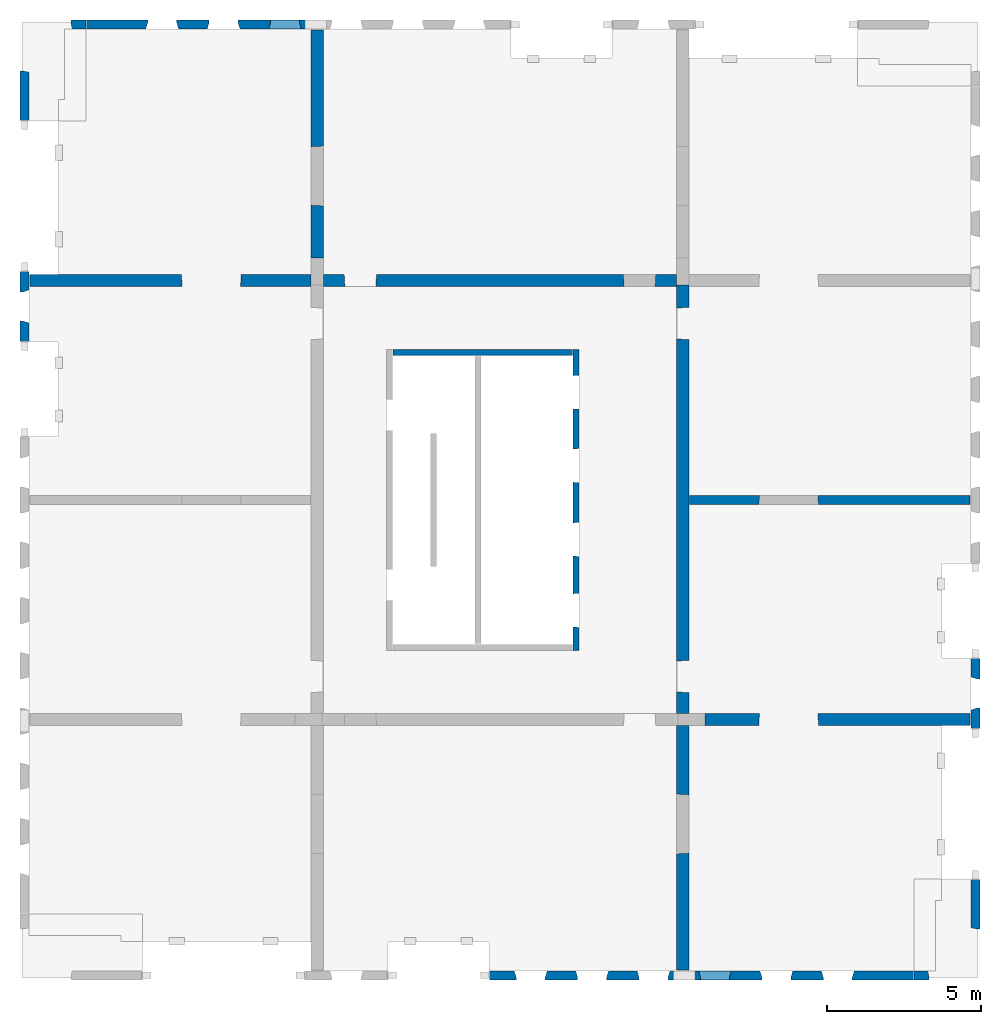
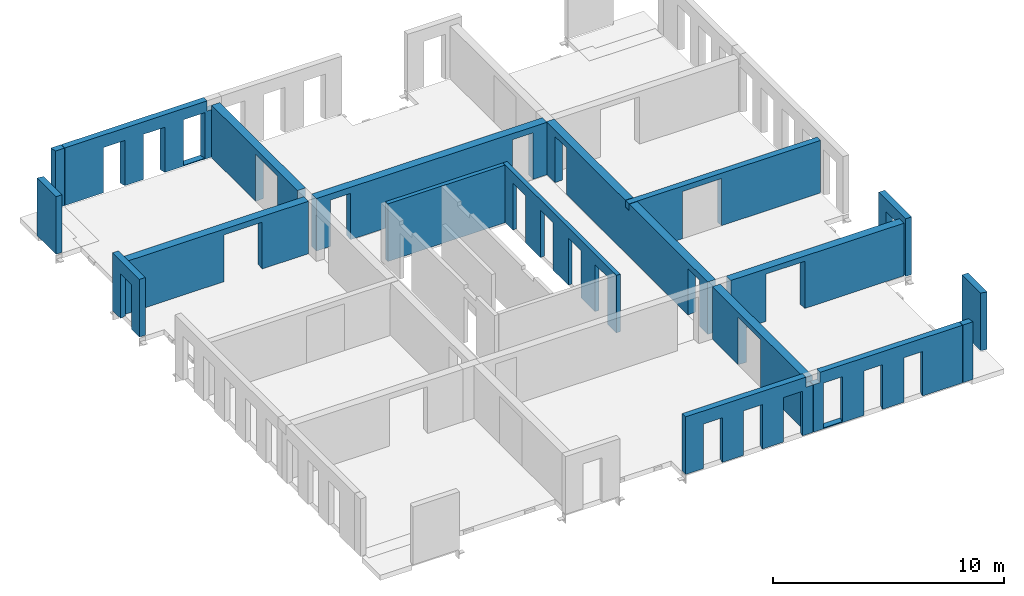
# One storey, part 3 of 4: 18 walls, 33 openings.
"""IFC2X3 building model written with IfcOpenShell, lengths in millimetres."""

import ifcopenshell
import ifcopenshell.guid

model = None  # the IFC model being written
_history = None  # IfcOwnerHistory: only IFC2X3 demands one
_inside = {}  # id of a spatial element -> (the spatial element, [elements in it])
_under = {}  # id of a project, library or spatial element -> (it, [spatial elements below it])
_declared = {}  # id of a project -> (the project, [libraries it declares])
_typed = {}  # id of a type object -> (the type object, [elements of that type])
_made_of = {}  # id of a material, layer set ... -> (it, [elements and type objects made of it])


def new_model(schema):
    """Start an empty IFC model of exactly this schema.

    Asked for "IFC4X3", IfcOpenShell would pick the latest addendum, in which some entities
    have other attributes; the version numbers below select the first issue.
    IFC2X3 requires an IfcOwnerHistory on every rooted entity: one is made here for all.
    """
    global model, _history
    if schema == "IFC4X3":
        model = ifcopenshell.file(schema_version=(4, 3, 0, 0))
    else:
        model = ifcopenshell.file(schema=schema)
    _inside.clear()
    _under.clear()
    _declared.clear()
    _typed.clear()
    _made_of.clear()
    _history = None
    if model.schema == "IFC2X3":
        org = make("IfcOrganization", Name="unknown")
        user = make(
            "IfcPersonAndOrganization",
            ThePerson=make("IfcPerson", FamilyName="unknown"),
            TheOrganization=org,
        )
        app = make(
            "IfcApplication",
            ApplicationDeveloper=org,
            Version="unknown",
            ApplicationFullName="unknown",
            ApplicationIdentifier="unknown",
        )
        _history = make(
            "IfcOwnerHistory",
            OwningUser=user,
            OwningApplication=app,
            ChangeAction="ADDED",
            CreationDate=0,
        )
    return model


def make(cls, **values):
    """One entity of the class cls with the attributes given. An attribute that is None is left unset."""
    return model.create_entity(
        cls, **{name: value for name, value in values.items() if value is not None}
    )


def entity(cls, *values):
    """Any entity or typed value of the class cls, its attributes in the order of the schema. None: left unset."""
    e = model.create_entity(cls)
    for i, value in enumerate(values):
        if value is not None:
            e[i] = value
    return e


def rooted(cls, **values):
    """An entity with a GlobalId (a new one), such as an element, a storey or a relation."""
    return make(cls, GlobalId=ifcopenshell.guid.new(), OwnerHistory=_history, **values)


def si_unit(unit_type, name, prefix=None):
    """IfcSIUnit, for example si_unit("LENGTHUNIT", "METRE", prefix="MILLI")."""
    return make("IfcSIUnit", UnitType=unit_type, Prefix=prefix, Name=name)


def converted_unit(unit_type, name, factor, base, dimensions=None, offset=None):
    """IfcConversionBasedUnit, such as the inch: factor (a typed value) times the base unit."""
    return make(
        "IfcConversionBasedUnit"
        if offset is None
        else "IfcConversionBasedUnitWithOffset",
        ConversionOffset=offset,
        Dimensions=None
        if dimensions is None
        else entity("IfcDimensionalExponents", *dimensions),
        UnitType=unit_type,
        Name=name,
        ConversionFactor=make(
            "IfcMeasureWithUnit", ValueComponent=factor, UnitComponent=base
        ),
    )


def derived_unit(unit_type, elements):
    """IfcDerivedUnit: a product of units, each with its exponent."""
    return make(
        "IfcDerivedUnit",
        Elements=[
            make("IfcDerivedUnitElement", Unit=unit, Exponent=power)
            for unit, power in elements
        ],
        UnitType=unit_type,
    )


def assignment(units):
    """IfcUnitAssignment: the units of a project."""
    return None if units is None else make("IfcUnitAssignment", Units=units)


def point(xyz):
    """IfcCartesianPoint."""
    return None if xyz is None else make("IfcCartesianPoint", Coordinates=xyz)


def direction(xyz):
    """IfcDirection."""
    return None if xyz is None else make("IfcDirection", DirectionRatios=xyz)


def frame(location, z_axis=None, x_axis=None):
    """IfcAxis2Placement3D, a coordinate frame: its origin and axes. An axis left out is left unset."""
    return make(
        "IfcAxis2Placement3D",
        Location=point(location),
        Axis=direction(z_axis),
        RefDirection=direction(x_axis),
    )


def frame_2d(location, x_axis=None):
    """IfcAxis2Placement2D, a coordinate frame in the plane: its origin and x axis."""
    return make(
        "IfcAxis2Placement2D", Location=point(location), RefDirection=direction(x_axis)
    )


def origin():
    """The frame at (0, 0, 0) with its axes left unset."""
    return frame((0.0, 0.0, 0.0))


def origin_2d_with_axis():
    """The frame at (0, 0) in the plane with the x axis (1, 0) written out."""
    return frame_2d((0.0, 0.0), x_axis=(1.0, 0.0))


def place(relative_to, where):
    """IfcLocalPlacement: puts the frame where relative to a parent placement (None: the world)."""
    return make(
        "IfcLocalPlacement", PlacementRelTo=relative_to, RelativePlacement=where
    )


def context(
    kind, dimensions, precision=None, world=None, true_north=None, identifier=None
):
    """IfcGeometricRepresentationContext, for example the 3D "Model" context."""
    return make(
        "IfcGeometricRepresentationContext",
        ContextIdentifier=identifier,
        ContextType=kind,
        CoordinateSpaceDimension=dimensions,
        Precision=precision,
        WorldCoordinateSystem=world,
        TrueNorth=true_north,
    )


def subcontext(parent, identifier, kind, view, scale=None):
    """IfcGeometricRepresentationSubContext, for example "Body" below "Model"."""
    return make(
        "IfcGeometricRepresentationSubContext",
        ContextIdentifier=identifier,
        ContextType=kind,
        ParentContext=parent,
        TargetScale=scale,
        TargetView=view,
    )


def project(units=None, contexts=None):
    """IfcProject with its units and contexts."""
    return rooted(
        "IfcProject",
        Name="project",
        RepresentationContexts=contexts,
        UnitsInContext=assignment(units),
    )


def spatial(cls, under=None, at=None, **own):
    """A site, building, storey or space (cls), placed at a placement, below another one or the project."""
    s = rooted(cls, ObjectPlacement=at, **own)
    if under is not None:
        _under.setdefault(under.id(), (under, []))[1].append(s)
    return s


def profile(cls, at=None, kind="AREA", **sizes):
    """A parametric profile (cls). Its sizes go by their IFC names, for example OverallWidth=200.0."""
    return make(cls, ProfileType=kind, Position=at, **sizes)


def rectangle(**sizes):
    """IfcRectangleProfileDef."""
    return profile("IfcRectangleProfileDef", **sizes)


def extrude(swept, where, along, depth):
    """IfcExtrudedAreaSolid: the profile swept, set in the frame where, extruded along a direction by depth."""
    return make(
        "IfcExtrudedAreaSolid",
        SweptArea=swept,
        Position=where,
        ExtrudedDirection=direction(along),
        Depth=depth,
    )


def faces_of(points, faces, orient=None, outer=None):
    """IfcFace entities. A face is a list of loops; a loop is a list of indices into points, from 0.

    orient and outer hold one flag for each loop. By default every Orientation is true, the
    first loop of a face is its IfcFaceOuterBound and the others are IfcFaceBound.
    """
    made = []
    for i, loops in enumerate(faces):
        bounds = []
        for j, loop in enumerate(loops):
            is_outer = j == 0 if outer is None else outer[i][j]
            bounds.append(
                make(
                    "IfcFaceOuterBound" if is_outer else "IfcFaceBound",
                    Bound=make("IfcPolyLoop", Polygon=[points[k] for k in loop]),
                    Orientation=True if orient is None else orient[i][j],
                )
            )
        made.append(make("IfcFace", Bounds=bounds))
    return made


def faceted_brep(points, faces, orient=None, outer=None, voids=None):
    """IfcFacetedBrep: a solid bounded by flat faces; with voids (closed shells), ...WithVoids."""
    shared = [point(p) for p in points]
    hull = make("IfcClosedShell", CfsFaces=faces_of(shared, faces, orient, outer))
    if voids is None:
        return make("IfcFacetedBrep", Outer=hull)
    return make(
        "IfcFacetedBrepWithVoids",
        Outer=hull,
        Voids=[
            make(cls, CfsFaces=faces_of(shared, fs, o, b)) for cls, fs, o, b in voids
        ],
    )


def shape(context_of_items, identifier, shape_type, items):
    """IfcShapeRepresentation: the items that make up one representation, for example the "Body"."""
    return make(
        "IfcShapeRepresentation",
        ContextOfItems=context_of_items,
        RepresentationIdentifier=identifier,
        RepresentationType=shape_type,
        Items=items,
    )


def material(Name=None, Category=None):
    """IfcMaterial."""
    return make("IfcMaterial", Name=Name, Category=Category)


def layer(
    of_material, thickness, ventilated=None, Name=None, Category=None, Priority=None
):
    """IfcMaterialLayer: one layer of a wall or slab, of a material (None: an air gap)."""
    return make(
        "IfcMaterialLayer",
        Material=of_material,
        LayerThickness=thickness,
        IsVentilated=ventilated,
        Name=Name,
        Category=Category,
        Priority=Priority,
    )


def layer_set(layers, Name=None):
    """IfcMaterialLayerSet."""
    return make("IfcMaterialLayerSet", MaterialLayers=layers, LayerSetName=Name)


def layer_usage(for_layer_set, set_direction, sense, offset, extent=None):
    """IfcMaterialLayerSetUsage: how a layer set lies in its element."""
    return make(
        "IfcMaterialLayerSetUsage",
        ForLayerSet=for_layer_set,
        LayerSetDirection=set_direction,
        DirectionSense=sense,
        OffsetFromReferenceLine=offset,
        ReferenceExtent=extent,
    )


def made_of(thing, what):
    """Note that an element or type object is made of a material, layer set ...; save() writes the relation."""
    if what is not None:
        _made_of.setdefault(what.id(), (what, []))[1].append(thing)
    return thing


def type_object(cls, material=None, **own):
    """A type object (cls), such as IfcWallType, which elements share."""
    return made_of(rooted(cls, **own), material)


def element(
    cls,
    number,
    at=None,
    inside=None,
    cuts=None,
    type_object=None,
    material=None,
    context=None,
    identifier="Body",
    shape_type=None,
    held_by="IfcProductDefinitionShape",
    body=None,
    shapes=None,
    **own,
):
    """One element of the class cls, such as IfcWall. Its Tag is "e" and its number.

    at: its placement. inside: the storey or other place that contains it. cuts: it is an
    opening in that element (IfcRelVoidsElement). A single representation is given by context,
    identifier, shape_type and body (its items); several are given by shapes. held_by: the class
    of the entity that holds the representations. save() writes the other relations.
    """
    e = rooted(cls, Tag="e%d" % number, ObjectPlacement=at, **own)
    if body is not None:
        shapes = [shape(context, identifier, shape_type, body)]
    if shapes is not None:
        e.Representation = make(held_by, Representations=shapes)
    if inside is not None:
        _inside.setdefault(inside.id(), (inside, []))[1].append(e)
    if cuts is not None:
        rooted(
            "IfcRelVoidsElement", RelatingBuildingElement=cuts, RelatedOpeningElement=e
        )
    if type_object is not None:
        _typed.setdefault(type_object.id(), (type_object, []))[1].append(e)
    return made_of(e, material)


def aggregate(whole, parts):
    """IfcRelAggregates: a whole, such as a stair, and the parts it consists of."""
    return rooted("IfcRelAggregates", RelatingObject=whole, RelatedObjects=parts)


def save(model, path):
    """Write the relations noted so far, then the file.

    IfcRelAggregates (storeys below a building ...), IfcRelContainedInSpatialStructure (elements
    in a storey), IfcRelDefinesByType, IfcRelAssociatesMaterial and IfcRelDeclares: one each for
    every whole, place, type object, material and project.
    """
    for whole, parts in _under.values():
        aggregate(whole, parts)
    for where, things in _inside.values():
        rooted(
            "IfcRelContainedInSpatialStructure",
            RelatedElements=things,
            RelatingStructure=where,
        )
    for kind, things in _typed.values():
        rooted("IfcRelDefinesByType", RelatedObjects=things, RelatingType=kind)
    for what, things in _made_of.values():
        rooted("IfcRelAssociatesMaterial", RelatedObjects=things, RelatingMaterial=what)
    for by, libraries in _declared.values():
        rooted("IfcRelDeclares", RelatingContext=by, RelatedDefinitions=libraries)
    model.write(path)


model = new_model("IFC2X3")

# Units and contexts
model_context = context("Model", 3, precision=0.01, world=origin(), true_north=direction((6.12303176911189e-17, 1.0)))
body_context = subcontext(model_context, "Body", "Model", "MODEL_VIEW")
ifc_project = project(units=[si_unit("LENGTHUNIT", "METRE", prefix="MILLI"), si_unit("AREAUNIT", "SQUARE_METRE"), si_unit("VOLUMEUNIT", "CUBIC_METRE"), converted_unit("PLANEANGLEUNIT", "DEGREE", entity("IfcRatioMeasure", 0.0174532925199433), si_unit("PLANEANGLEUNIT", "RADIAN"), dimensions=[0, 0, 0, 0, 0, 0, 0]), si_unit("MASSUNIT", "GRAM", prefix="KILO"), derived_unit("MASSDENSITYUNIT", [(si_unit("MASSUNIT", "GRAM", prefix="KILO"), 1), (si_unit("LENGTHUNIT", "METRE"), -3)]), si_unit("TIMEUNIT", "SECOND"), si_unit("FREQUENCYUNIT", "HERTZ"), si_unit("THERMODYNAMICTEMPERATUREUNIT", "DEGREE_CELSIUS"), derived_unit("THERMALTRANSMITTANCEUNIT", [(si_unit("MASSUNIT", "GRAM", prefix="KILO"), 1), (si_unit("THERMODYNAMICTEMPERATUREUNIT", "KELVIN"), -1), (si_unit("TIMEUNIT", "SECOND"), -3)]), derived_unit("VOLUMETRICFLOWRATEUNIT", [(si_unit("LENGTHUNIT", "METRE"), 3), (si_unit("TIMEUNIT", "SECOND"), -1)]), si_unit("ELECTRICCURRENTUNIT", "AMPERE"), si_unit("ELECTRICVOLTAGEUNIT", "VOLT"), si_unit("POWERUNIT", "WATT"), si_unit("FORCEUNIT", "NEWTON", prefix="KILO"), si_unit("ILLUMINANCEUNIT", "LUX"), si_unit("LUMINOUSFLUXUNIT", "LUMEN"), si_unit("LUMINOUSINTENSITYUNIT", "CANDELA"), derived_unit("USERDEFINED", [(si_unit("MASSUNIT", "GRAM", prefix="KILO"), -1), (si_unit("LENGTHUNIT", "METRE"), -2), (si_unit("TIMEUNIT", "SECOND"), 3), (si_unit("LUMINOUSFLUXUNIT", "LUMEN"), 1)]), derived_unit("LINEARVELOCITYUNIT", [(si_unit("LENGTHUNIT", "METRE"), 1), (si_unit("TIMEUNIT", "SECOND"), -1)]), si_unit("PRESSUREUNIT", "PASCAL"), derived_unit("USERDEFINED", [(si_unit("LENGTHUNIT", "METRE"), -2), (si_unit("MASSUNIT", "GRAM", prefix="KILO"), 1), (si_unit("TIMEUNIT", "SECOND"), -2)])], contexts=[model_context])

# Site, building, storey
site_placement = place(None, origin())
site = spatial("IfcSite", under=ifc_project, at=site_placement, Name="Default", CompositionType="ELEMENT")
building_placement = place(site_placement, origin())
building = spatial("IfcBuilding", under=site, at=building_placement, Name="niet gebruiken", CompositionType="ELEMENT")
storey_placement = place(building_placement, frame((0.0, 0.0, 103680.0)))
storey = spatial("IfcBuildingStorey", under=building, at=storey_placement, Name="33 drieëndertigste verdieping", CompositionType="ELEMENT", Elevation=103680.0)

# Wall, openings
ifc_material = material(Name="NLRS_f2_beton prefab")
ifc_layer_1 = layer(ifc_material, 200.0)
ifc_layer_set_1 = layer_set([ifc_layer_1], Name="Basic Wall:NLRS_22.21_WA_beton prefab d=200_gen")
ifc_layer_usage_1 = layer_usage(ifc_layer_set_1, "AXIS2", "NEGATIVE", 100.0)
wall_type_1 = type_object("IfcWallType", Name="Basic Wall:NLRS_22.21_WA_beton prefab d=200_gen", PredefinedType="STANDARD", material=ifc_layer_set_1)
wall_1_placement = place(storey_placement, frame((144230.0, 22400.0, -50.0), z_axis=(0.0, 0.0, 1.0), x_axis=(0.0, -1.0, 0.0)))
wall_1 = element("IfcWallStandardCase", 1, at=wall_1_placement, inside=storey, type_object=wall_type_1, material=ifc_layer_usage_1, Name="Basic Wall:NLRS_22.21_WA_beton prefab d=200_gen", ObjectType="Basic Wall:NLRS_22.21_WA_beton prefab d=200_gen", context=body_context, shape_type="SweptSolid", body=[
    extrude(rectangle(XDim=9800.0, YDim=199.999999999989, at=frame_2d((4900.0, -3.69482222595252e-13), x_axis=(-1.0, 0.0))), origin(), (0.0, 0.0, 1.0), 3040.0),
])
opening_1_placement = place(wall_1_placement, frame((9047.0, -100.0, 0.0)))
element("IfcOpeningElement", 2, at=opening_1_placement, cuts=wall_1, Name="Basic Wall:NLRS_22.21_WA_beton prefab d=200_gen", ObjectType="Opening", context=body_context, shape_type="Brep", body=[
    faceted_brep([(-1104.0, 200.0, 2502.0), (-1104.0, 200.0, 0.0), (-1092.0, 0.0, 0.0), (-1092.0, 0.0, 2490.0), (0.0, 200.0, 0.0), (-12.0, 0.0, 0.0), (-12.0, 0.0, 2490.0), (0.0, 200.0, 2502.0)], [[[0, 1, 2, 3]], [[1, 4, 5, 2]], [[6, 3, 2, 5]], [[7, 4, 1, 0]], [[7, 0, 3, 6]], [[4, 7, 6, 5]]]),
])
opening_2_placement = place(wall_1_placement, frame((6737.0, -100.0, 0.0)))
element("IfcOpeningElement", 3, at=opening_2_placement, cuts=wall_1, Name="Basic Wall:NLRS_22.21_WA_beton prefab d=200_gen", ObjectType="Opening", context=body_context, shape_type="Brep", body=[
    faceted_brep([(-1104.0, 200.0, 2502.0), (-1104.0, 200.0, 0.0), (-1092.0, 0.0, 0.0), (-1092.0, 0.0, 2490.0), (0.0, 200.0, 0.0), (-12.0, 0.0, 0.0), (-12.0, 0.0, 2490.0), (0.0, 200.0, 2502.0)], [[[0, 1, 2, 3]], [[1, 4, 5, 2]], [[6, 3, 2, 5]], [[7, 4, 1, 0]], [[7, 0, 3, 6]], [[4, 7, 6, 5]]]),
])
opening_3_placement = place(wall_1_placement, frame((4332.0, -100.0, 0.0)))
element("IfcOpeningElement", 4, at=opening_3_placement, cuts=wall_1, Name="Basic Wall:NLRS_22.21_WA_beton prefab d=200_gen", ObjectType="Opening", context=body_context, shape_type="Brep", body=[
    faceted_brep([(-1104.0, 200.0, 2502.0), (-1104.0, 200.0, 0.0), (-1092.0, 0.0, 0.0), (-1092.0, 0.0, 2490.0), (0.0, 200.0, 0.0), (-12.0, 0.0, 0.0), (-12.0, 0.0, 2490.0), (0.0, 200.0, 2502.0)], [[[0, 1, 2, 3]], [[1, 4, 5, 2]], [[6, 3, 2, 5]], [[7, 4, 1, 0]], [[7, 0, 3, 6]], [[4, 7, 6, 5]]]),
])
opening_4_placement = place(wall_1_placement, frame((1942.0, -100.0, 0.0)))
element("IfcOpeningElement", 5, at=opening_4_placement, cuts=wall_1, Name="Basic Wall:NLRS_22.21_WA_beton prefab d=200_gen", ObjectType="Opening", context=body_context, shape_type="Brep", body=[
    faceted_brep([(-1104.0, 200.0, 2502.0), (-1104.0, 200.0, 0.0), (-1092.0, 0.0, 0.0), (-1092.0, 0.0, 2490.0), (0.0, 200.0, 0.0), (-12.0, 0.0, 0.0), (-12.0, 0.0, 2490.0), (0.0, 200.0, 2502.0)], [[[0, 1, 2, 3]], [[1, 4, 5, 2]], [[6, 3, 2, 5]], [[7, 4, 1, 0]], [[7, 0, 3, 6]], [[4, 7, 6, 5]]]),
])

# Wall
ifc_layer_usage_2 = layer_usage(ifc_layer_set_1, "AXIS2", "NEGATIVE", 100.0)
wall_2_placement = place(storey_placement, frame((138270.0, 22300.0, -50.0)))
element("IfcWallStandardCase", 6, at=wall_2_placement, inside=storey, type_object=wall_type_1, material=ifc_layer_usage_2, Name="Basic Wall:NLRS_22.21_WA_beton prefab d=200_gen", ObjectType="Basic Wall:NLRS_22.21_WA_beton prefab d=200_gen", context=body_context, shape_type="SweptSolid", body=[
    extrude(rectangle(XDim=5839.99999999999, YDim=199.999999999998, at=frame_2d((2919.99999999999, -7.60280727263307e-13), x_axis=(-1.0, 0.0))), origin(), (0.0, 0.0, 1.0), 3040.0),
])

# Wall, openings
ifc_layer_2 = layer(ifc_material, 300.0)
ifc_layer_set_2 = layer_set([ifc_layer_2], Name="Basic Wall:NLRS_22.21_WA_beton prefab d=300_gen")
ifc_layer_usage_3 = layer_usage(ifc_layer_set_2, "AXIS2", "NEGATIVE", 150.0)
wall_type_2 = type_object("IfcWallType", Name="Basic Wall:NLRS_22.21_WA_beton prefab d=300_gen", PredefinedType="STANDARD", material=ifc_layer_set_2)
wall_3_placement = place(storey_placement, frame((157060.0, 17500.0, -70.0), z_axis=(0.0, 0.0, 1.0), x_axis=(-1.0, 0.0, 0.0)))
wall_3 = element("IfcWallStandardCase", 7, at=wall_3_placement, inside=storey, type_object=wall_type_2, material=ifc_layer_usage_3, Name="Basic Wall:NLRS_22.21_WA_beton prefab d=300_gen", ObjectType="Basic Wall:NLRS_22.21_WA_beton prefab d=300_gen", context=body_context, shape_type="SweptSolid", body=[
    extrude(rectangle(XDim=9559.9999999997, YDim=300.000000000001, at=frame_2d((4779.99999999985, -1.84741111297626e-13), x_axis=(-1.0, 0.0))), origin(), (0.0, 0.0, 1.0), 2769.99999999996),
])
opening_5_placement = place(wall_3_placement, frame((6878.0, 150.0, 0.0)))
element("IfcOpeningElement", 8, at=opening_5_placement, cuts=wall_3, Name="Basic Wall:NLRS_22.21_WA_beton prefab d=300_gen", ObjectType="Opening", context=body_context, shape_type="Brep", body=[
    faceted_brep([(-18.0, -300.0, 2470.0), (-1918.0, -300.0, 2470.0), (-1918.0, -300.0, 0.0), (-18.0, -300.0, 0.0), (0.0, 0.0, 2488.0), (0.0, 0.0, 0.0), (-1936.0, 0.0, 0.0), (-1936.0, 0.0, 2488.0)], [[[0, 1, 2, 3]], [[4, 5, 6, 7]], [[4, 7, 1, 0]], [[7, 6, 2, 1]], [[6, 5, 3, 2]], [[5, 4, 0, 3]]]),
])
opening_6_placement = place(wall_3_placement, origin())
element("IfcOpeningElement", 9, at=opening_6_placement, cuts=wall_3, Name="Basic Wall:NLRS_22.21_WA_beton prefab d=300_gen", ObjectType="Opening", context=body_context, shape_type="SweptSolid", body=[
    extrude(rectangle(XDim=2439.99999999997, YDim=420.000000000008, at=frame_2d((0.0, 0.0), x_axis=(0.0, 1.0))), frame((9350.0, 150.0, 1220.0), z_axis=(0.0, -1.0, 0.0), x_axis=(1.0, 0.0, 0.0)), (0.0, 0.0, 1.0), 300.0),
])

# Wall, opening
ifc_layer_3 = layer(ifc_material, 400.0)
ifc_layer_set_3 = layer_set([ifc_layer_3], Name="Basic Wall:NLRS_22.21_WA_beton prefab d=400_gen")
ifc_layer_usage_4 = layer_usage(ifc_layer_set_3, "AXIS2", "NEGATIVE", 200.0)
wall_type_3 = type_object("IfcWallType", Name="Basic Wall:NLRS_22.21_WA_beton prefab d=400_gen", PredefinedType="STANDARD", material=ifc_layer_set_3)
wall_4_placement = place(storey_placement, frame((147700.0, 10150.0, -70.0), z_axis=(0.0, 0.0, 1.0), x_axis=(0.0, -1.0, 0.0)))
wall_4 = element("IfcWallStandardCase", 10, at=wall_4_placement, inside=storey, type_object=wall_type_3, material=ifc_layer_usage_4, Name="Basic Wall:NLRS_22.21_WA_beton prefab d=400_gen", ObjectType="Basic Wall:NLRS_22.21_WA_beton prefab d=400_gen", context=body_context, shape_type="SweptSolid", body=[
    extrude(rectangle(XDim=7960.00000000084, YDim=400.000000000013, at=frame_2d((3980.00000000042, -7.105427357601e-14), x_axis=(-1.0, 0.0))), origin(), (0.0, 0.0, 1.0), 2770.00000000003),
])
opening_7_placement = place(wall_4_placement, frame((4174.0, -200.0, 0.0)))
element("IfcOpeningElement", 11, at=opening_7_placement, cuts=wall_4, Name="Basic Wall:NLRS_22.21_WA_beton prefab d=400_gen", ObjectType="Opening", context=body_context, shape_type="Brep", body=[
    faceted_brep([(-24.0, 400.0, 2470.0), (-24.0, 400.0, 0.0), (-1924.0, 400.0, 0.0), (-1924.0, 400.0, 2470.0), (0.0, 0.0, 2494.0), (-1948.0, 0.0, 2494.0), (-1948.0, 0.0, 0.0), (0.0, 0.0, 0.0)], [[[0, 1, 2, 3]], [[4, 5, 6, 7]], [[4, 0, 3, 5]], [[5, 3, 2, 6]], [[6, 2, 1, 7]], [[7, 1, 0, 4]]]),
])

ifc_layer_usage_5 = layer_usage(ifc_layer_set_3, "AXIS2", "NEGATIVE", 200.0)
wall_5_placement = place(storey_placement, frame((135600.0, 24650.0, -70.0), z_axis=(0.0, 0.0, 1.0), x_axis=(-1.0, 0.0, 0.0)))
wall_5 = element("IfcWallStandardCase", 12, at=wall_5_placement, inside=storey, type_object=wall_type_3, material=ifc_layer_usage_5, Name="Basic Wall:NLRS_22.21_WA_beton prefab d=400_gen", ObjectType="Basic Wall:NLRS_22.21_WA_beton prefab d=400_gen", context=body_context, shape_type="SweptSolid", body=[
    extrude(rectangle(XDim=9159.99999999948, YDim=399.999999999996, at=frame_2d((4579.99999999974, -1.36424205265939e-12), x_axis=(-1.0, 0.0))), origin(), (0.0, 0.0, 1.0), 2770.00000000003),
])
opening_8_placement = place(wall_5_placement, frame((4224.0, 200.0, 0.0)))
element("IfcOpeningElement", 13, at=opening_8_placement, cuts=wall_5, Name="Basic Wall:NLRS_22.21_WA_beton prefab d=400_gen", ObjectType="Opening", context=body_context, shape_type="Brep", body=[
    faceted_brep([(-1924.0, 0.0, 2470.0), (-24.0, 0.0, 2470.0), (-24.0, 0.0, 0.0), (-1924.0, 0.0, 0.0), (-1948.0, -400.0, 2494.0), (-1948.0, -400.0, 0.0), (0.0, -400.0, 0.0), (0.0, -400.0, 2494.0)], [[[0, 1, 2, 3]], [[4, 5, 6, 7]], [[4, 7, 1, 0]], [[7, 6, 2, 1]], [[6, 5, 3, 2]], [[5, 4, 0, 3]]]),
])

ifc_layer_usage_6 = layer_usage(ifc_layer_set_3, "AXIS2", "NEGATIVE", 200.0)
wall_6_placement = place(storey_placement, frame((148430.0, 10350.0, -70.0)))
wall_6 = element("IfcWallStandardCase", 14, at=wall_6_placement, inside=storey, type_object=wall_type_3, material=ifc_layer_usage_6, Name="Basic Wall:NLRS_22.21_WA_beton prefab d=400_gen", ObjectType="Basic Wall:NLRS_22.21_WA_beton prefab d=400_gen", context=body_context, shape_type="SweptSolid", body=[
    extrude(rectangle(XDim=8630.00000000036, YDim=400.0, at=frame_2d((4315.00000000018, 0.0), x_axis=(-1.0, 0.0))), origin(), (0.0, 0.0, 1.0), 2770.00000000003),
])
opening_9_placement = place(wall_6_placement, frame((1746.0, -200.0, 0.0)))
element("IfcOpeningElement", 15, at=opening_9_placement, cuts=wall_6, Name="Basic Wall:NLRS_22.21_WA_beton prefab d=400_gen", ObjectType="Opening", context=body_context, shape_type="Brep", body=[
    faceted_brep([(24.0, 400.0, 2470.0), (1924.0, 400.0, 2470.0), (1924.0, 400.0, 0.0), (24.0, 400.0, 0.0), (0.0, 0.0, 2494.0), (0.0, 0.0, 0.0), (1948.0, 0.0, 0.0), (1948.0, 0.0, 2494.0)], [[[0, 1, 2, 3]], [[4, 5, 6, 7]], [[4, 7, 1, 0]], [[7, 6, 2, 1]], [[6, 5, 3, 2]], [[5, 4, 0, 3]]]),
])

ifc_layer_usage_7 = layer_usage(ifc_layer_set_3, "AXIS2", "NEGATIVE", 200.0)
wall_7_placement = place(storey_placement, frame((135800.0, 25380.0, -70.0), z_axis=(0.0, 0.0, 1.0), x_axis=(0.0, 1.0, 0.0)))
wall_7 = element("IfcWallStandardCase", 16, at=wall_7_placement, inside=storey, type_object=wall_type_3, material=ifc_layer_usage_7, Name="Basic Wall:NLRS_22.21_WA_beton prefab d=400_gen", ObjectType="Basic Wall:NLRS_22.21_WA_beton prefab d=400_gen", context=body_context, shape_type="SweptSolid", body=[
    extrude(rectangle(XDim=7430.00000000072, YDim=400.000000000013, at=frame_2d((3715.00000000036, -5.62749846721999e-12), x_axis=(-1.0, 0.0))), origin(), (0.0, 0.0, 1.0), 2770.00000000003),
])
opening_10_placement = place(wall_7_placement, frame((1696.0, 200.0, 0.0)))
element("IfcOpeningElement", 17, at=opening_10_placement, cuts=wall_7, Name="Basic Wall:NLRS_22.21_WA_beton prefab d=400_gen", ObjectType="Opening", context=body_context, shape_type="Brep", body=[
    faceted_brep([(1924.0, 0.0, 2470.0), (1924.0, 0.0, 0.0), (24.0, 0.0, 0.0), (24.0, 0.0, 2470.0), (1948.0, -400.0, 2494.0), (0.0, -400.0, 2494.0), (0.0, -400.0, 0.0), (1948.0, -400.0, 0.0)], [[[0, 1, 2, 3]], [[4, 5, 6, 7]], [[4, 0, 3, 5]], [[5, 3, 2, 6]], [[6, 2, 1, 7]], [[7, 1, 0, 4]]]),
])

# Wall, openings
ifc_layer_usage_8 = layer_usage(ifc_layer_set_3, "AXIS2", "NEGATIVE", 200.0)
wall_8_placement = place(storey_placement, frame((147700.0, 24500.0, -70.0), z_axis=(0.0, 0.0, 1.0), x_axis=(0.0, -1.0, 0.0)))
wall_8 = element("IfcWallStandardCase", 18, at=wall_8_placement, inside=storey, type_object=wall_type_3, material=ifc_layer_usage_8, Name="Basic Wall:NLRS_22.21_WA_beton prefab d=400_gen", ObjectType="Basic Wall:NLRS_22.21_WA_beton prefab d=400_gen", context=body_context, shape_type="SweptSolid", body=[
    extrude(rectangle(XDim=13949.9999999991, YDim=400.000000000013, at=frame_2d((6974.99999999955, 2.8421709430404e-14), x_axis=(-1.0, 0.0))), origin(), (0.0, 0.0, 1.0), 2770.00000000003),
])
opening_11_placement = place(wall_8_placement, frame((13274.0, -200.0, 0.0)))
element("IfcOpeningElement", 19, at=opening_11_placement, cuts=wall_8, Name="Basic Wall:NLRS_22.21_WA_beton prefab d=400_gen", ObjectType="Opening", context=body_context, shape_type="Brep", body=[
    faceted_brep([(-1054.0, 400.0, 2472.0), (-1054.0, 400.0, 0.0), (-1030.0, 0.0, 0.0), (-1030.0, 0.0, 2448.0), (0.0, 400.0, 0.0), (-24.0, 0.0, 0.0), (-24.0, 0.0, 2448.0), (0.0, 400.0, 2472.0)], [[[0, 1, 2, 3]], [[1, 4, 5, 2]], [[6, 3, 2, 5]], [[7, 4, 1, 0]], [[7, 0, 3, 6]], [[4, 7, 6, 5]]]),
])
opening_12_placement = place(wall_8_placement, frame((1780.0, -200.0, 0.0)))
element("IfcOpeningElement", 20, at=opening_12_placement, cuts=wall_8, Name="Basic Wall:NLRS_22.21_WA_beton prefab d=400_gen", ObjectType="Opening", context=body_context, shape_type="Brep", body=[
    faceted_brep([(-1054.0, 400.0, 2472.0), (-1054.0, 400.0, 0.0), (-1030.0, 0.0, 0.0), (-1030.0, 0.0, 2448.0), (0.0, 400.0, 0.0), (-24.0, 0.0, 0.0), (-24.0, 0.0, 2448.0), (0.0, 400.0, 2472.0)], [[[0, 1, 2, 3]], [[1, 4, 5, 2]], [[6, 3, 2, 5]], [[7, 4, 1, 0]], [[7, 0, 3, 6]], [[4, 7, 6, 5]]]),
])
opening_13_placement = place(wall_8_placement, origin())
element("IfcOpeningElement", 21, at=opening_13_placement, cuts=wall_8, Name="Basic Wall:NLRS_22.21_WA_beton prefab d=400_gen", ObjectType="Opening", context=body_context, shape_type="SweptSolid", body=[
    extrude(rectangle(XDim=350.000000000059, YDim=339.999999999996, at=frame_2d((0.0, -1.73230318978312e-11), x_axis=(0.0, 1.0))), frame((7000.0, 200.0, 2595.0), z_axis=(0.0, -1.0, 0.0), x_axis=(-1.0, 0.0, 0.0)), (0.0, 0.0, 1.0), 400.0),
])

ifc_layer_usage_9 = layer_usage(ifc_layer_set_3, "AXIS2", "NEGATIVE", 200.0)
wall_9_placement = place(storey_placement, frame((136000.0, 24650.0, -70.0)))
wall_9 = element("IfcWallStandardCase", 22, at=wall_9_placement, inside=storey, type_object=wall_type_3, material=ifc_layer_usage_9, Name="Basic Wall:NLRS_22.21_WA_beton prefab d=400_gen", ObjectType="Basic Wall:NLRS_22.21_WA_beton prefab d=400_gen", context=body_context, shape_type="SweptSolid", body=[
    extrude(rectangle(XDim=11500.0, YDim=400.000000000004, at=frame_2d((5750.0, -1.09423581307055e-12), x_axis=(-1.0, 0.0))), origin(), (0.0, 0.0, 1.0), 2770.00000000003),
])
opening_14_placement = place(wall_9_placement, frame((676.0, -200.0, 0.0)))
element("IfcOpeningElement", 23, at=opening_14_placement, cuts=wall_9, Name="Basic Wall:NLRS_22.21_WA_beton prefab d=400_gen", ObjectType="Opening", context=body_context, shape_type="Brep", body=[
    faceted_brep([(0.0, 400.0, 2472.0), (0.0, 400.0, 0.0), (24.0, 0.0, 0.0), (24.0, 0.0, 2448.0), (1054.0, 400.0, 0.0), (1030.0, 0.0, 0.0), (1030.0, 0.0, 2448.0), (1054.0, 400.0, 2472.0)], [[[0, 1, 2, 3]], [[1, 4, 5, 2]], [[6, 3, 2, 5]], [[7, 4, 1, 0]], [[7, 0, 3, 6]], [[4, 7, 6, 5]]]),
])
opening_15_placement = place(wall_9_placement, frame((9770.0, -200.0, 0.0)))
element("IfcOpeningElement", 24, at=opening_15_placement, cuts=wall_9, Name="Basic Wall:NLRS_22.21_WA_beton prefab d=400_gen", ObjectType="Opening", context=body_context, shape_type="Brep", body=[
    faceted_brep([(0.0, 400.0, 2472.0), (0.0, 400.0, 0.0), (24.0, 0.0, 0.0), (24.0, 0.0, 2448.0), (1054.0, 400.0, 0.0), (1030.0, 0.0, 0.0), (1030.0, 0.0, 2448.0), (1054.0, 400.0, 2472.0)], [[[0, 1, 2, 3]], [[1, 4, 5, 2]], [[6, 3, 2, 5]], [[7, 4, 1, 0]], [[7, 0, 3, 6]], [[4, 7, 6, 5]]]),
])

# Wall, opening
ifc_layer_4 = layer(ifc_material, 300.0)
ifc_layer_set_4 = layer_set([ifc_layer_4], Name="Basic Wall:NLRS_21.21_WA_beton prefab d=300/320_gen")
ifc_layer_usage_10 = layer_usage(ifc_layer_set_4, "AXIS2", "NEGATIVE", 150.0)
wall_type_4 = type_object("IfcWallType", Name="Basic Wall:NLRS_21.21_WA_beton prefab d=300/320_gen", PredefinedType="STANDARD", material=ifc_layer_set_4)
wall_10_placement = place(storey_placement, frame((157230.0, 12360.0, -50.0), z_axis=(0.0, 0.0, 1.0), x_axis=(0.0, -1.0, 0.0)))
wall_10 = element("IfcWallStandardCase", 25, at=wall_10_placement, inside=storey, type_object=wall_type_4, material=ifc_layer_usage_10, Name="Basic Wall:NLRS_21.21_WA_beton prefab d=300/320_gen", ObjectType="Basic Wall:NLRS_21.21_WA_beton prefab d=300/320_gen", context=body_context, shape_type="SweptSolid", body=[
    extrude(rectangle(XDim=2320.00000000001, YDim=300.000000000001, at=frame_2d((1160.0, -8.38440428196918e-12), x_axis=(-1.0, 0.0))), origin(), (0.0, 0.0, 1.0), 3040.0),
])
opening_16_placement = place(wall_10_placement, frame((1695.0, -150.0, -20.0)))
element("IfcOpeningElement", 26, at=opening_16_placement, cuts=wall_10, Name="Basic Wall:NLRS_21.21_WA_beton prefab d=300/320_gen", ObjectType="Opening", context=body_context, shape_type="Brep", body=[
    faceted_brep([(-1070.0, 0.0, 2405.0), (-1070.0, 0.0, 0.0), (0.0, 0.0, 0.0), (0.0, 0.0, 2405.0), (-65.0, 219.0, 2370.0), (-1005.0, 219.0, 2370.0), (-65.0, 219.0, 0.0), (-1005.0, 219.0, 0.0), (-1005.0, 300.0, 0.0), (-65.0, 300.0, 0.0), (-1005.0, 300.0, 2370.0), (-65.0, 300.0, 2370.0)], [[[0, 1, 2, 3]], [[3, 4, 5, 0]], [[2, 6, 4, 3]], [[1, 7, 8, 9, 6, 2]], [[0, 5, 7, 1]], [[10, 11, 9, 8]], [[10, 5, 4, 11]], [[11, 4, 6, 9]], [[8, 7, 5, 10]]]),
])

ifc_layer_usage_11 = layer_usage(ifc_layer_set_4, "AXIS2", "NEGATIVE", 150.0)
wall_11_placement = place(storey_placement, frame((126270.0, 22640.0, -50.0), z_axis=(0.0, 0.0, 1.0), x_axis=(0.0, 1.0, 0.0)))
wall_11 = element("IfcWallStandardCase", 27, at=wall_11_placement, inside=storey, type_object=wall_type_4, material=ifc_layer_usage_11, Name="Basic Wall:NLRS_21.21_WA_beton prefab d=300/320_gen", ObjectType="Basic Wall:NLRS_21.21_WA_beton prefab d=300/320_gen", context=body_context, shape_type="SweptSolid", body=[
    extrude(rectangle(XDim=2320.0, YDim=300.000000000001, at=frame_2d((1160.0, -3.60955709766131e-12), x_axis=(-1.0, 0.0))), origin(), (0.0, 0.0, 1.0), 3040.0),
])
opening_17_placement = place(wall_11_placement, frame((625.0, 150.0, -20.0)))
element("IfcOpeningElement", 28, at=opening_17_placement, cuts=wall_11, Name="Basic Wall:NLRS_21.21_WA_beton prefab d=300/320_gen", ObjectType="Opening", context=body_context, shape_type="Brep", body=[
    faceted_brep([(0.0, -300.0, 2405.0), (0.0, -300.0, 0.0), (1070.0, -300.0, 0.0), (1070.0, -300.0, 2405.0), (1005.0, -81.0, 2370.0), (65.0, -81.0, 2370.0), (1005.0, -81.0, 0.0), (65.0, -81.0, 0.0), (65.0, 0.0, 0.0), (1005.0, 0.0, 0.0), (65.0, 0.0, 2370.0), (1005.0, 0.0, 2370.0)], [[[0, 1, 2, 3]], [[3, 4, 5, 0]], [[2, 6, 4, 3]], [[1, 7, 8, 9, 6, 2]], [[0, 5, 7, 1]], [[10, 11, 9, 8]], [[10, 5, 4, 11]], [[11, 4, 6, 9]], [[8, 7, 5, 10]]]),
])

# Wall, openings
ifc_layer_usage_12 = layer_usage(ifc_layer_set_4, "AXIS2", "NEGATIVE", 150.0)
wall_12_placement = place(storey_placement, frame((128290.0, 32980.0, -50.0)))
wall_12 = element("IfcWallStandardCase", 29, at=wall_12_placement, inside=storey, type_object=wall_type_4, material=ifc_layer_usage_12, Name="Basic Wall:NLRS_21.21_WA_beton prefab d=300/320_gen", ObjectType="Basic Wall:NLRS_21.21_WA_beton prefab d=300/320_gen", context=body_context, shape_type="SweptSolid", body=[
    extrude(rectangle(XDim=7449.9999999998, YDim=300.000000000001, at=frame_2d((3724.9999999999, 0.0), x_axis=(-1.0, 0.0))), origin(), (0.0, 0.0, 1.0), 3040.0),
])
opening_18_placement = place(wall_12_placement, frame((3925.0, -150.0, -20.0)))
element("IfcOpeningElement", 30, at=opening_18_placement, cuts=wall_12, Name="Basic Wall:NLRS_21.21_WA_beton prefab d=300/320_gen", ObjectType="Opening", context=body_context, shape_type="Brep", body=[
    faceted_brep([(1070.0, 0.0, 2405.0), (0.0, 0.0, 2405.0), (0.0, 0.0, 0.0), (1070.0, 0.0, 0.0), (1005.0, 219.0, 2370.0), (65.0, 219.0, 2370.0), (65.0, 219.0, 0.0), (65.0, 300.0, 0.0), (1005.0, 300.0, 0.0), (1005.0, 219.0, 0.0), (1005.0, 300.0, 2370.0), (65.0, 300.0, 2370.0)], [[[0, 1, 2, 3]], [[1, 0, 4, 5]], [[2, 1, 5, 6]], [[3, 2, 6, 7, 8, 9]], [[0, 3, 9, 4]], [[10, 8, 7, 11]], [[10, 11, 5, 4]], [[11, 7, 6, 5]], [[8, 10, 4, 9]]]),
])
opening_19_placement = place(wall_12_placement, frame((1925.0, -150.0, -20.0)))
element("IfcOpeningElement", 31, at=opening_19_placement, cuts=wall_12, Name="Basic Wall:NLRS_21.21_WA_beton prefab d=300/320_gen", ObjectType="Opening", context=body_context, shape_type="Brep", body=[
    faceted_brep([(1070.0, 0.0, 2405.0), (0.0, 0.0, 2405.0), (0.0, 0.0, 0.0), (1070.0, 0.0, 0.0), (1005.0, 219.0, 2370.0), (65.0, 219.0, 2370.0), (65.0, 219.0, 0.0), (65.0, 300.0, 0.0), (1005.0, 300.0, 0.0), (1005.0, 219.0, 0.0), (1005.0, 300.0, 2370.0), (65.0, 300.0, 2370.0)], [[[0, 1, 2, 3]], [[1, 0, 4, 5]], [[2, 1, 5, 6]], [[3, 2, 6, 7, 8, 9]], [[0, 3, 9, 4]], [[10, 8, 7, 11]], [[10, 11, 5, 4]], [[11, 7, 6, 5]], [[8, 10, 4, 9]]]),
])
opening_20_placement = place(wall_12_placement, frame((5925.0, -150.0, 50.0)))
element("IfcOpeningElement", 32, at=opening_20_placement, cuts=wall_12, Name="Basic Wall:NLRS_21.21_WA_beton prefab d=300/320_gen", ObjectType="Opening", context=body_context, shape_type="Brep", body=[
    faceted_brep([(1070.0, 0.0, 2405.0), (0.0, 0.0, 2405.0), (0.0, 0.0, 0.0), (1070.0, 0.0, 0.0), (1005.0, 219.0, 2370.0), (65.0, 219.0, 2370.0), (65.0, 219.0, 0.0), (65.0, 300.0, 0.0), (1005.0, 300.0, 0.0), (1005.0, 219.0, 0.0), (1005.0, 300.0, 2370.0), (65.0, 300.0, 2370.0)], [[[0, 1, 2, 3]], [[1, 0, 4, 5]], [[2, 1, 5, 6]], [[3, 2, 6, 7, 8, 9]], [[0, 3, 9, 4]], [[10, 8, 7, 11]], [[10, 11, 5, 4]], [[11, 7, 6, 5]], [[8, 10, 4, 9]]]),
])
opening_21_placement = place(wall_12_placement, origin())
element("IfcOpeningElement", 33, at=opening_21_placement, cuts=wall_12, Name="Basic Wall:NLRS_21.21_WA_beton prefab d=300/320_gen", ObjectType="Opening", context=body_context, shape_type="SweptSolid", body=[
    extrude(rectangle(XDim=535.0, YDim=344.999999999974, at=origin_2d_with_axis()), frame((7277.49999999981, 150.0, 2772.5), z_axis=(0.0, -1.0, 0.0), x_axis=(0.0, 0.0, 1.0)), (0.0, 0.0, 1.0), 300.0),
])

ifc_layer_usage_13 = layer_usage(ifc_layer_set_4, "AXIS2", "NEGATIVE", 150.0)
wall_13_placement = place(storey_placement, frame((155210.0, 2020.0, -50.0), z_axis=(0.0, 0.0, 1.0), x_axis=(-1.0, 0.0, 0.0)))
wall_13 = element("IfcWallStandardCase", 34, at=wall_13_placement, inside=storey, type_object=wall_type_4, material=ifc_layer_usage_13, Name="Basic Wall:NLRS_21.21_WA_beton prefab d=300/320_gen", ObjectType="Basic Wall:NLRS_21.21_WA_beton prefab d=300/320_gen", context=body_context, shape_type="SweptSolid", body=[
    extrude(rectangle(XDim=7449.99999999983, YDim=300.0, at=frame_2d((3724.99999999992, 5.6843418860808e-14), x_axis=(-1.0, 0.0))), origin(), (0.0, 0.0, 1.0), 3040.0),
])
opening_22_placement = place(wall_13_placement, frame((4995.0, 150.0, -20.0)))
element("IfcOpeningElement", 35, at=opening_22_placement, cuts=wall_13, Name="Basic Wall:NLRS_21.21_WA_beton prefab d=300/320_gen", ObjectType="Opening", context=body_context, shape_type="Brep", body=[
    faceted_brep([(0.0, -300.0, 2405.0), (-1070.0, -300.0, 2405.0), (-1070.0, -300.0, 0.0), (0.0, -300.0, 0.0), (-65.0, -81.0, 2370.0), (-1005.0, -81.0, 2370.0), (-1005.0, -81.0, 0.0), (-1005.0, 0.0, 0.0), (-65.0, 0.0, 0.0), (-65.0, -81.0, 0.0), (-65.0, 0.0, 2370.0), (-1005.0, 0.0, 2370.0)], [[[0, 1, 2, 3]], [[1, 0, 4, 5]], [[2, 1, 5, 6]], [[3, 2, 6, 7, 8, 9]], [[0, 3, 9, 4]], [[10, 8, 7, 11]], [[10, 11, 5, 4]], [[11, 7, 6, 5]], [[8, 10, 4, 9]]]),
])
opening_23_placement = place(wall_13_placement, frame((2995.0, 150.0, -20.0)))
element("IfcOpeningElement", 36, at=opening_23_placement, cuts=wall_13, Name="Basic Wall:NLRS_21.21_WA_beton prefab d=300/320_gen", ObjectType="Opening", context=body_context, shape_type="Brep", body=[
    faceted_brep([(0.0, -300.0, 2405.0), (-1070.0, -300.0, 2405.0), (-1070.0, -300.0, 0.0), (0.0, -300.0, 0.0), (-65.0, -81.0, 2370.0), (-1005.0, -81.0, 2370.0), (-1005.0, -81.0, 0.0), (-1005.0, 0.0, 0.0), (-65.0, 0.0, 0.0), (-65.0, -81.0, 0.0), (-65.0, 0.0, 2370.0), (-1005.0, 0.0, 2370.0)], [[[0, 1, 2, 3]], [[1, 0, 4, 5]], [[2, 1, 5, 6]], [[3, 2, 6, 7, 8, 9]], [[0, 3, 9, 4]], [[10, 8, 7, 11]], [[10, 11, 5, 4]], [[11, 7, 6, 5]], [[8, 10, 4, 9]]]),
])
opening_24_placement = place(wall_13_placement, frame((6995.0, 150.0, 50.0)))
element("IfcOpeningElement", 37, at=opening_24_placement, cuts=wall_13, Name="Basic Wall:NLRS_21.21_WA_beton prefab d=300/320_gen", ObjectType="Opening", context=body_context, shape_type="Brep", body=[
    faceted_brep([(0.0, -300.0, 2405.0), (-1070.0, -300.0, 2405.0), (-1070.0, -300.0, 0.0), (0.0, -300.0, 0.0), (-65.0, -81.0, 2370.0), (-1005.0, -81.0, 2370.0), (-1005.0, -81.0, 0.0), (-1005.0, 0.0, 0.0), (-65.0, 0.0, 0.0), (-65.0, -81.0, 0.0), (-65.0, 0.0, 2370.0), (-1005.0, 0.0, 2370.0)], [[[0, 1, 2, 3]], [[1, 0, 4, 5]], [[2, 1, 5, 6]], [[3, 2, 6, 7, 8, 9]], [[0, 3, 9, 4]], [[10, 8, 7, 11]], [[10, 11, 5, 4]], [[11, 7, 6, 5]], [[8, 10, 4, 9]]]),
])
opening_25_placement = place(wall_13_placement, origin())
element("IfcOpeningElement", 38, at=opening_25_placement, cuts=wall_13, Name="Basic Wall:NLRS_21.21_WA_beton prefab d=300/320_gen", ObjectType="Opening", context=body_context, shape_type="SweptSolid", body=[
    extrude(rectangle(XDim=535.0, YDim=344.999999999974, at=origin_2d_with_axis()), frame((7277.49999999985, 150.0, 2772.5), z_axis=(0.0, -1.0, 0.0), x_axis=(0.0, 0.0, 1.0)), (0.0, 0.0, 1.0), 300.0),
])

# Wall, opening
ifc_layer_usage_14 = layer_usage(ifc_layer_set_4, "AXIS2", "NEGATIVE", 150.0)
wall_14_placement = place(storey_placement, frame((127780.0, 32980.0, -50.0)))
wall_14 = element("IfcWallStandardCase", 39, at=wall_14_placement, inside=storey, type_object=wall_type_4, material=ifc_layer_usage_14, Name="Basic Wall:NLRS_21.21_WA_beton prefab d=300/320_gen", ObjectType="Basic Wall:NLRS_21.21_WA_beton prefab d=300/320_gen", context=body_context, shape_type="SweptSolid", body=[
    extrude(rectangle(XDim=489.999999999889, YDim=300.000000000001, at=frame_2d((244.999999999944, -6.67910171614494e-13), x_axis=(-1.0, 0.0))), origin(), (0.0, 0.0, 1.0), 3040.0),
])
opening_26_placement = place(wall_14_placement, frame((0.0, -250.0, 0.0)))
element("IfcOpeningElement", 40, at=opening_26_placement, cuts=wall_14, Name="Basic Wall:NLRS_21.21_WA_beton prefab d=300/320_gen", ObjectType="Opening", context=body_context, shape_type="Brep", body=[
    faceted_brep([(0.0, 0.0, 3040.0), (65.0, 0.0, 3040.0), (0.0, 319.0, 3040.0), (0.0, 0.0, 0.0), (0.0, 319.0, 0.0), (65.0, 0.0, 0.0)], [[[0, 1, 2]], [[3, 4, 5]], [[1, 0, 3, 5]], [[0, 2, 4, 3]], [[2, 1, 5, 4]]]),
])

ifc_layer_usage_15 = layer_usage(ifc_layer_set_4, "AXIS2", "NEGATIVE", 150.0)
wall_15_placement = place(storey_placement, frame((126270.0, 29840.0, -50.0), z_axis=(0.0, 0.0, 1.0), x_axis=(0.0, 1.0, 0.0)))
wall_15 = element("IfcWallStandardCase", 41, at=wall_15_placement, inside=storey, type_object=wall_type_4, material=ifc_layer_usage_15, Name="Basic Wall:NLRS_21.21_WA_beton prefab d=300/320_gen", ObjectType="Basic Wall:NLRS_21.21_WA_beton prefab d=300/320_gen", context=body_context, shape_type="SweptSolid", body=[
    extrude(rectangle(XDim=1629.99999999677, YDim=300.000000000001, at=frame_2d((814.999999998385, 8.95283847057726e-13), x_axis=(-1.0, 0.0))), origin(), (0.0, 0.0, 1.0), 3040.0),
])
opening_27_placement = place(wall_15_placement, frame((1565.0, 69.0, 0.0)))
element("IfcOpeningElement", 42, at=opening_27_placement, cuts=wall_15, Name="Basic Wall:NLRS_21.21_WA_beton prefab d=300/320_gen", ObjectType="Opening", context=body_context, shape_type="Brep", body=[
    faceted_brep([(65.0, -319.0, 3040.0), (65.0, 0.0, 3040.0), (0.0, -319.0, 3040.0), (65.0, -319.0, 0.0), (0.0, -319.0, 0.0), (65.0, 0.0, 0.0)], [[[0, 1, 2]], [[3, 4, 5]], [[2, 4, 3, 0]], [[0, 3, 5, 1]], [[1, 5, 4, 2]]]),
])

ifc_layer_usage_16 = layer_usage(ifc_layer_set_4, "AXIS2", "NEGATIVE", 150.0)
wall_16_placement = place(storey_placement, frame((155720.0, 2020.0, -50.0), z_axis=(0.0, 0.0, 1.0), x_axis=(-1.0, 0.0, 0.0)))
wall_16 = element("IfcWallStandardCase", 43, at=wall_16_placement, inside=storey, type_object=wall_type_4, material=ifc_layer_usage_16, Name="Basic Wall:NLRS_21.21_WA_beton prefab d=300/320_gen", ObjectType="Basic Wall:NLRS_21.21_WA_beton prefab d=300/320_gen", context=body_context, shape_type="SweptSolid", body=[
    extrude(rectangle(XDim=489.999999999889, YDim=300.0, at=frame_2d((244.999999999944, 4.2632564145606e-14), x_axis=(-1.0, 0.0))), origin(), (0.0, 0.0, 1.0), 3040.0),
])
opening_28_placement = place(wall_16_placement, frame((65.0, 69.0, 0.0)))
element("IfcOpeningElement", 44, at=opening_28_placement, cuts=wall_16, Name="Basic Wall:NLRS_21.21_WA_beton prefab d=300/320_gen", ObjectType="Opening", context=body_context, shape_type="Brep", body=[
    faceted_brep([(-65.0, -319.0, 3040.0), (0.0, -319.0, 3040.0), (-65.0, 0.0, 3040.0), (-65.0, -319.0, 0.0), (-65.0, 0.0, 0.0), (0.0, -319.0, 0.0)], [[[0, 1, 2]], [[3, 4, 5]], [[1, 0, 3, 5]], [[0, 2, 4, 3]], [[2, 1, 5, 4]]]),
])

ifc_layer_usage_17 = layer_usage(ifc_layer_set_4, "AXIS2", "NEGATIVE", 150.0)
wall_17_placement = place(storey_placement, frame((157230.0, 5160.0, -50.0), z_axis=(0.0, 0.0, 1.0), x_axis=(0.0, -1.0, 0.0)))
wall_17 = element("IfcWallStandardCase", 45, at=wall_17_placement, inside=storey, type_object=wall_type_4, material=ifc_layer_usage_17, Name="Basic Wall:NLRS_21.21_WA_beton prefab d=300/320_gen", ObjectType="Basic Wall:NLRS_21.21_WA_beton prefab d=300/320_gen", context=body_context, shape_type="SweptSolid", body=[
    extrude(rectangle(XDim=1629.99999999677, YDim=300.000000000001, at=frame_2d((814.999999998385, 4.76063632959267e-12), x_axis=(-1.0, 0.0))), origin(), (0.0, 0.0, 1.0), 3040.0),
])
opening_29_placement = place(wall_17_placement, frame((1630.0, -250.0, 0.0)))
element("IfcOpeningElement", 46, at=opening_29_placement, cuts=wall_17, Name="Basic Wall:NLRS_21.21_WA_beton prefab d=300/320_gen", ObjectType="Opening", context=body_context, shape_type="Brep", body=[
    faceted_brep([(0.0, 0.0, 3040.0), (0.0, 319.0, 3040.0), (-65.0, 0.0, 3040.0), (0.0, 0.0, 0.0), (-65.0, 0.0, 0.0), (0.0, 319.0, 0.0)], [[[0, 1, 2]], [[3, 4, 5]], [[2, 4, 3, 0]], [[0, 3, 5, 1]], [[1, 5, 4, 2]]]),
])

# Wall, openings
ifc_layer_usage_18 = layer_usage(ifc_layer_set_4, "AXIS2", "NEGATIVE", 150.0)
wall_18_placement = place(storey_placement, frame((147740.0, 2020.0, -50.0), z_axis=(0.0, 0.0, 1.0), x_axis=(-1.0, 0.0, 0.0)))
wall_18 = element("IfcWallStandardCase", 47, at=wall_18_placement, inside=storey, type_object=wall_type_4, material=ifc_layer_usage_18, Name="Basic Wall:NLRS_21.21_WA_beton prefab d=300/320_gen", ObjectType="Basic Wall:NLRS_21.21_WA_beton prefab d=300/320_gen", context=body_context, shape_type="SweptSolid", body=[
    extrude(rectangle(XDim=6350.00000000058, YDim=300.0, at=frame_2d((3175.00000000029, -4.2632564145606e-14), x_axis=(-1.0, 0.0))), origin(), (0.0, 0.0, 1.0), 3040.0),
])
opening_30_placement = place(wall_18_placement, frame((1525.0, 150.0, -20.0)))
element("IfcOpeningElement", 48, at=opening_30_placement, cuts=wall_18, Name="Basic Wall:NLRS_21.21_WA_beton prefab d=300/320_gen", ObjectType="Opening", context=body_context, shape_type="Brep", body=[
    faceted_brep([(0.0, -300.0, 2405.0), (-1070.0, -300.0, 2405.0), (-1070.0, -300.0, 0.0), (0.0, -300.0, 0.0), (-65.0, -81.0, 2370.0), (-1005.0, -81.0, 2370.0), (-1005.0, -81.0, 0.0), (-1005.0, 0.0, 0.0), (-65.0, 0.0, 0.0), (-65.0, -81.0, 0.0), (-65.0, 0.0, 2370.0), (-1005.0, 0.0, 2370.0)], [[[0, 1, 2, 3]], [[1, 0, 4, 5]], [[2, 1, 5, 6]], [[3, 2, 6, 7, 8, 9]], [[0, 3, 9, 4]], [[10, 8, 7, 11]], [[10, 11, 5, 4]], [[11, 7, 6, 5]], [[8, 10, 4, 9]]]),
])
opening_31_placement = place(wall_18_placement, frame((3525.0, 150.0, -20.0)))
element("IfcOpeningElement", 49, at=opening_31_placement, cuts=wall_18, Name="Basic Wall:NLRS_21.21_WA_beton prefab d=300/320_gen", ObjectType="Opening", context=body_context, shape_type="Brep", body=[
    faceted_brep([(0.0, -300.0, 2405.0), (-1070.0, -300.0, 2405.0), (-1070.0, -300.0, 0.0), (0.0, -300.0, 0.0), (-65.0, -81.0, 2370.0), (-1005.0, -81.0, 2370.0), (-1005.0, -81.0, 0.0), (-1005.0, 0.0, 0.0), (-65.0, 0.0, 0.0), (-65.0, -81.0, 0.0), (-65.0, 0.0, 2370.0), (-1005.0, 0.0, 2370.0)], [[[0, 1, 2, 3]], [[1, 0, 4, 5]], [[2, 1, 5, 6]], [[3, 2, 6, 7, 8, 9]], [[0, 3, 9, 4]], [[10, 8, 7, 11]], [[10, 11, 5, 4]], [[11, 7, 6, 5]], [[8, 10, 4, 9]]]),
])
opening_32_placement = place(wall_18_placement, frame((5525.0, 150.0, -20.0)))
element("IfcOpeningElement", 50, at=opening_32_placement, cuts=wall_18, Name="Basic Wall:NLRS_21.21_WA_beton prefab d=300/320_gen", ObjectType="Opening", context=body_context, shape_type="Brep", body=[
    faceted_brep([(0.0, -300.0, 2405.0), (-1070.0, -300.0, 2405.0), (-1070.0, -300.0, 0.0), (0.0, -300.0, 0.0), (-65.0, -81.0, 2370.0), (-1005.0, -81.0, 2370.0), (-1005.0, -81.0, 0.0), (-1005.0, 0.0, 0.0), (-65.0, 0.0, 0.0), (-65.0, -81.0, 0.0), (-65.0, 0.0, 2370.0), (-1005.0, 0.0, 2370.0)], [[[0, 1, 2, 3]], [[1, 0, 4, 5]], [[2, 1, 5, 6]], [[3, 2, 6, 7, 8, 9]], [[0, 3, 9, 4]], [[10, 8, 7, 11]], [[10, 11, 5, 4]], [[11, 7, 6, 5]], [[8, 10, 4, 9]]]),
])
opening_33_placement = place(wall_18_placement, origin())
element("IfcOpeningElement", 51, at=opening_33_placement, cuts=wall_18, Name="Basic Wall:NLRS_21.21_WA_beton prefab d=300/320_gen", ObjectType="Opening", context=body_context, shape_type="SweptSolid", body=[
    extrude(rectangle(XDim=534.999999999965, YDim=345.000000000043, at=frame_2d((0.0, 0.0), x_axis=(0.0, 1.0))), frame((172.500000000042, 150.0, 2772.5), z_axis=(0.0, -1.0, 0.0), x_axis=(-1.0, 0.0, 0.0)), (0.0, 0.0, 1.0), 300.0),
])

save(model, "model.ifc")
